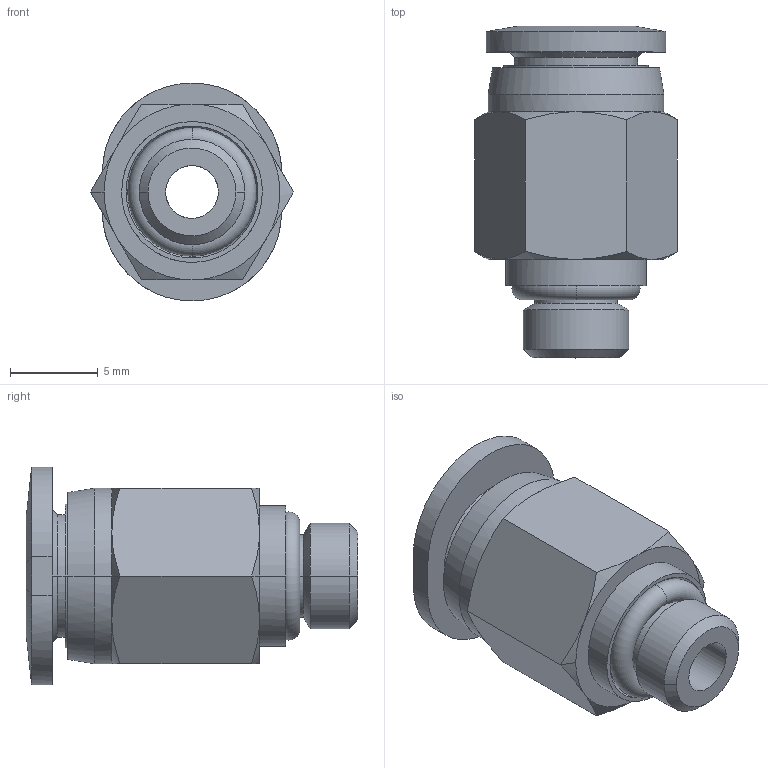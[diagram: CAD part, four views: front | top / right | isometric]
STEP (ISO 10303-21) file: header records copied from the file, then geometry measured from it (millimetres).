
FILE_DESCRIPTION (( 'STEP AP203' ), '1' );
FILE_NAME ('FMH06-M6.STEP', '2020-07-07T10:52:05', ( '' ), ( '' ), 'SwSTEP 2.0', 'SolidWorks 2019', '' );
FILE_SCHEMA (( 'CONFIG_CONTROL_DESIGN' ));
Length unit declared in the file: millimetre
Products named in the file (1): FMH06-M6
Bounding box: 11.55 x 18.88 x 12.39 mm (x, y, z)
Surface area: 1219.7 mm2 (no closed solid volume)
Topology: 0 solids, 4 shells, 72 faces, 161 edges, 99 vertices
Faces by surface type: cone 24, cylinder 20, plane 18, torus 6, bspline 4
Entity records: 3364 total; most frequent: CARTESIAN_POINT 1960, ORIENTED_EDGE 306, DIRECTION 180, EDGE_CURVE 161, B_SPLINE_CURVE_WITH_KNOTS 125, VERTEX_POINT 99, EDGE_LOOP 82, AXIS2_PLACEMENT_3D 75
